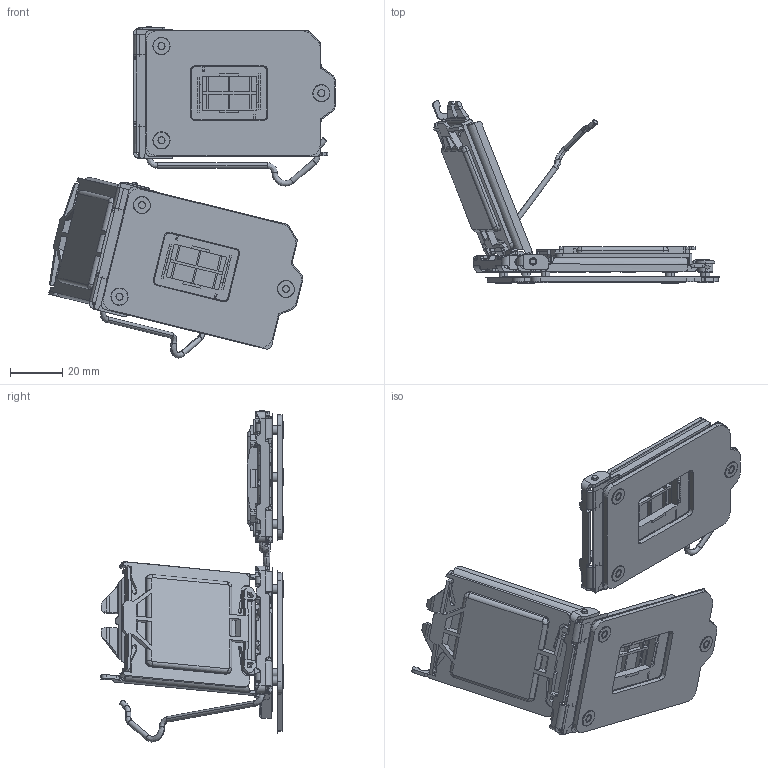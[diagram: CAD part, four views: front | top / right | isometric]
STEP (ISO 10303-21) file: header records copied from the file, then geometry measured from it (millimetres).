
FILE_DESCRIPTION (( 'STEP AP214' ), '1' );
FILE_NAME ('Assem1.STEP', '2016-02-14T04:27:28', ( '' ), ( '' ), 'SwSTEP 2.0', 'SolidWorks 2016', '' );
FILE_SCHEMA (( 'AUTOMOTIVE_DESIGN' ));
Length unit declared in the file: millimetre
Products named in the file (12): PT44P18-6401; FRAME_-_080304_-_HVM; 3D drawing_PT44A68-6401; COVER; PRT0007; PRT0008; 3D drawing_PT44A68-6401 - open; SRV_TORX_SCREW; 1155HOUSING; Assem1; SRV_SHOULDER_SCREW; FRAME_INSULATOR_-_080304_-_HVM
Assembly tree (22 placements, depth 3):
  Assem1
    3D drawing_PT44A68-6401
      FRAME_-_080304_-_HVM
      FRAME_INSULATOR_-_080304_-_HVM
      PRT0007
      PRT0008
      PT44P18-6401
      SRV_SHOULDER_SCREW
      SRV_TORX_SCREW  x2
      COVER
      1155HOUSING
    3D drawing_PT44A68-6401 - open
      FRAME_-_080304_-_HVM
      FRAME_INSULATOR_-_080304_-_HVM
      PRT0007
      PRT0008
      PT44P18-6401
      SRV_SHOULDER_SCREW
      SRV_TORX_SCREW  x2
      COVER
      1155HOUSING
Bounding box: 109.44 x 69.64 x 126.73 mm (x, y, z)
Volume: 38726.4 mm3; surface area: 69895 mm2
Topology: 36 solids, 36 shells, 4734 faces, 13156 edges, 8612 vertices
Faces by surface type: plane 3498, cylinder 1028, bspline 174, cone 34
Entity records: 84928 total; most frequent: CARTESIAN_POINT 18811, ORIENTED_EDGE 12964, DIRECTION 11091, EDGE_CURVE 6482, LINE 5067, VECTOR 5067, VERTEX_POINT 4249, AXIS2_PLACEMENT_3D 3012
